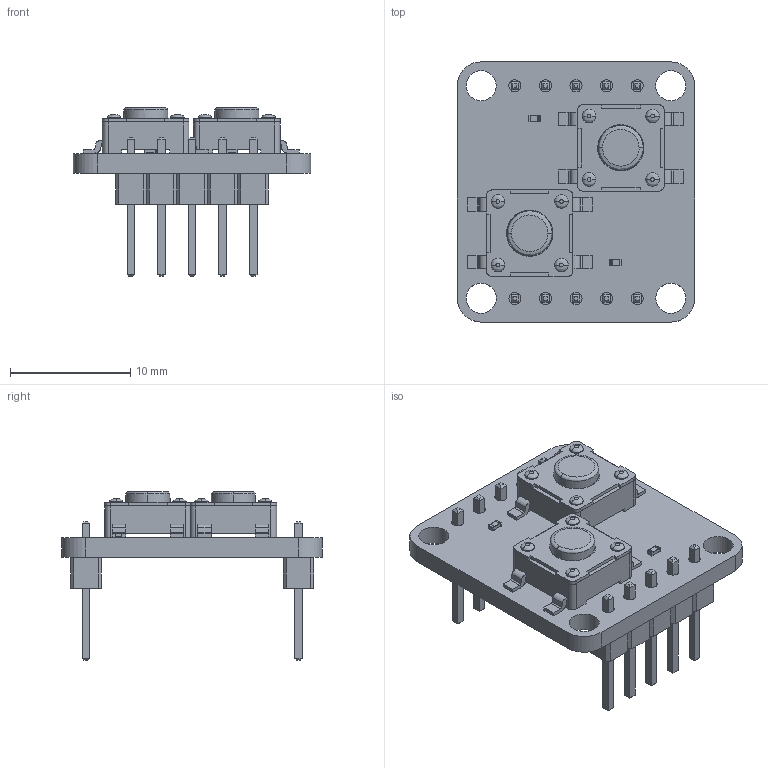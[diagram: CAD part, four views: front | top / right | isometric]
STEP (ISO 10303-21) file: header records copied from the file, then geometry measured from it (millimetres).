
FILE_DESCRIPTION(('KiCad electronic assembly'),'2;1');
FILE_NAME('AXM0017.step','2024-11-12T16:27:53',('Pcbnew'),('Kicad'), 'Open CASCADE STEP processor 7.8','KiCad to STEP converter','Unknown' );
FILE_SCHEMA(('AUTOMOTIVE_DESIGN { 1 0 10303 214 1 1 1 1 }'));
Length unit declared in the file: millimetre
Products named in the file (8): AXM0017 1; PTS647SK38SMTR2LFS; CU97M05647FP; R_0402_1005Metric; PinHeader_1x05_P2.54mm_Vertical; PinHeader_1x05_P254mm_Vertical; Two-Pad_PCB
Assembly tree (10 placements, depth 3):
  AXM0017 1
    PTS647SK38SMTR2LFS  x2
      CU97M05647FP
    R_0402_1005Metric  x2
      R_0402_1005Metric
    PinHeader_1x05_P2.54mm_Vertical  x2
      PinHeader_1x05_P254mm_Vertical
    Two-Pad_PCB
Bounding box: 19.74 x 21.64 x 14.04 mm (x, y, z)
Volume: 1129.8 mm3; surface area: 2025 mm2
Topology: 7 solids, 7 shells, 572 faces, 1442 edges, 928 vertices
Faces by surface type: plane 290, bspline 248, cylinder 34
Full cylindrical faces by diameter (mm): 1 x10, 2.5 x4
Entity records: 10058 total; most frequent: CARTESIAN_POINT 2741, ORIENTED_EDGE 1508, DIRECTION 852, EDGE_CURVE 754, VERTEX_POINT 486, LINE 378, VECTOR 378, FACE_BOUND 348
